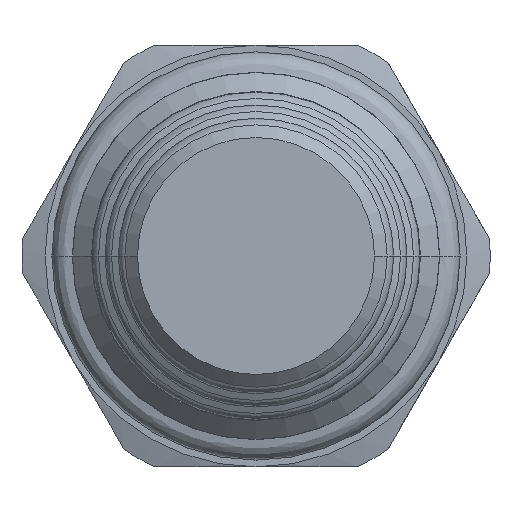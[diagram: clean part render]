
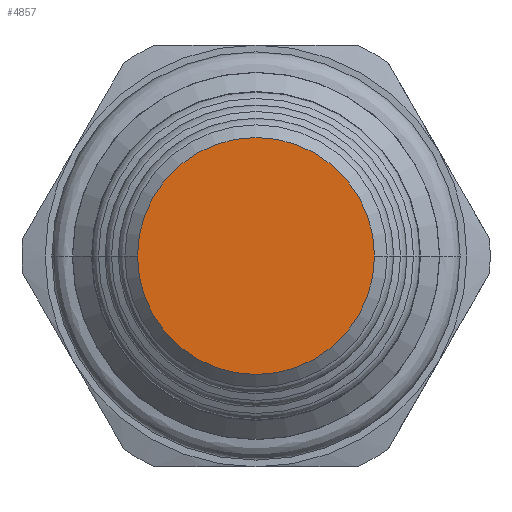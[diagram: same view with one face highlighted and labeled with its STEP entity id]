
A CAD part, front view. The second image highlights one B-rep face of the part: STEP entity #4857.
In plain terms, the highlighted planar face has unit normal (0, -1, 0).
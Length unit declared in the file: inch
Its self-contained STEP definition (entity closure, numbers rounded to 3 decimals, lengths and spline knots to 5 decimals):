
#1425=CARTESIAN_POINT('',(0.,-2.4385,0.));
#1426=DIRECTION('',(0.,1.,0.));
#1427=DIRECTION('',(1.,0.,0.));
#1428=AXIS2_PLACEMENT_3D('',#1425,#1426,#1427);
#1443=CARTESIAN_POINT('',(0.,-2.4385,0.));
#1444=DIRECTION('',(0.,1.,0.));
#1445=DIRECTION('',(-1.,0.,0.));
#1446=AXIS2_PLACEMENT_3D('',#1443,#1444,#1445);
#2568=CARTESIAN_POINT('',(-0.281,-2.4385,0.));
#2569=CARTESIAN_POINT('',(0.281,-2.4385,0.));
#2570=VERTEX_POINT('',#2568);
#2571=VERTEX_POINT('',#2569);
#4847=CARTESIAN_POINT('',(0.,-2.4385,0.));
#4848=DIRECTION('',(0.,1.,0.));
#4849=DIRECTION('',(1.,0.,0.));
#4850=AXIS2_PLACEMENT_3D('',#4847,#4848,#4849);
#4851=PLANE('',#4850);
#4852=ORIENTED_EDGE('',*,*,#4837,.T.);
#4854=ORIENTED_EDGE('',*,*,#4853,.T.);
#4855=EDGE_LOOP('',(#4852,#4854));
#4856=FACE_OUTER_BOUND('',#4855,.F.);
#4857=ADVANCED_FACE('',(#4856),#4851,.F.);
#1429=CIRCLE('',#1428,0.281);
#1447=CIRCLE('',#1446,0.281);
#4837=EDGE_CURVE('',#2571,#2570,#1429,.T.);
#4853=EDGE_CURVE('',#2570,#2571,#1447,.T.);
